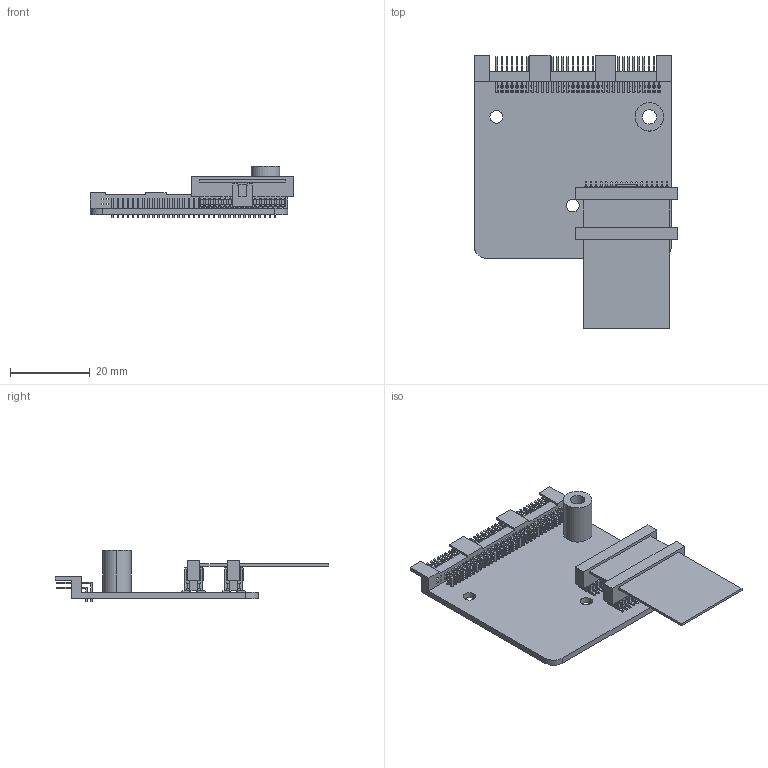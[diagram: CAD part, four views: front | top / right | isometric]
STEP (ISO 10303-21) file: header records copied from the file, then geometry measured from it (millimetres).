
FILE_DESCRIPTION((''),'2;1');
FILE_NAME('CU_PCB-264X','2011-08-30T',('jjorden'),(''),'PRO/ENGINEER BY PARAMETRIC TECHNOLOGY CORPORATION, 2010230','PRO/ENGINEER BY PARAMETRIC TECHNOLOGY CORPORATION, 2010230','');
FILE_SCHEMA(('CONFIG_CONTROL_DESIGN'));
Products named in the file (1): CU_PCB-264X
Bounding box: 51.12 x 68.63 x 12.8 mm (x, y, z)
Volume: 6055.1 mm3; surface area: 10384.8 mm2
Topology: 1 solids, 1 shells, 3959 faces, 11028 edges, 6942 vertices
Faces by surface type: plane 3593, cylinder 270, torus 64, sphere 32
Entity records: 125646 total; most frequent: CARTESIAN_POINT 23657, ORIENTED_EDGE 21928, DIRECTION 19546, EDGE_CURVE 10964, VECTOR 10172, LINE 10172, VERTEX_POINT 6942, AXIS2_PLACEMENT_3D 4687
